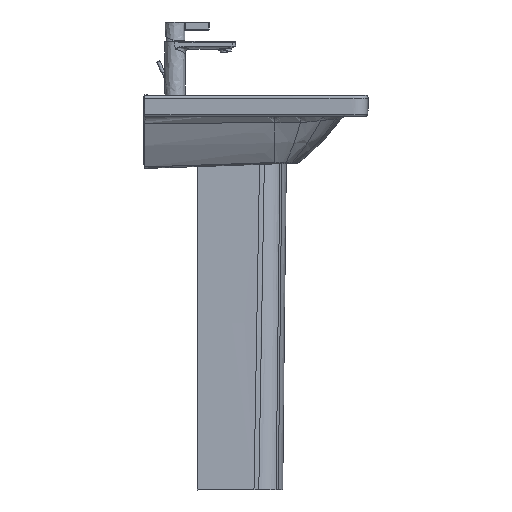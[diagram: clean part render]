
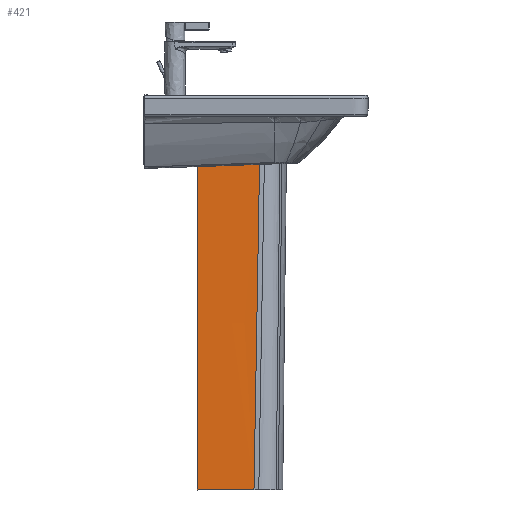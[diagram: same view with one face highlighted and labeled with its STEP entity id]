
A CAD part, left-side view. The second image highlights one B-rep face of the part: STEP entity #421.
In plain terms, the highlighted free-form (B-spline) face has degree [5, 5] with [9, 6] control points.
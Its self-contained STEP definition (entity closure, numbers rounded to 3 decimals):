
#421=ADVANCED_FACE('',(#1057),#9496,.T.);
#1057=FACE_OUTER_BOUND('',#1699,.T.);
#1699=EDGE_LOOP('',(#3626,#3627,#3628,#3629));
#3626=ORIENTED_EDGE('',*,*,#5879,.T.);
#3627=ORIENTED_EDGE('',*,*,#5881,.T.);
#3628=ORIENTED_EDGE('',*,*,#5880,.F.);
#3629=ORIENTED_EDGE('',*,*,#5865,.F.);
#5865=EDGE_CURVE('',#8615,#8601,#7605,.T.);
#5879=EDGE_CURVE('',#8615,#8622,#7619,.T.);
#5880=EDGE_CURVE('',#8601,#8602,#7620,.T.);
#5881=EDGE_CURVE('',#8622,#8602,#7621,.T.);
#7605=B_SPLINE_CURVE_WITH_KNOTS('',5,(#80259,#80260,#80261,#80262,#80263,
#80264,#80265,#80266,#80267,#80268,#80269,#80270,#80271,#80272,#80273,#80274,
#80275,#80276,#80277,#80278,#80279,#80280,#80281,#80282,#80283,#80284,#80285),
 .UNSPECIFIED.,.F.,.F.,(6,3,3,3,3,3,3,3,6),(-1014.293,-939.337,
-737.18,-534.646,-481.407,-329.77,
-152.247,-0.123,0.),.UNSPECIFIED.);
#7619=B_SPLINE_CURVE_WITH_KNOTS('',5,(#80482,#80483,#80484,#80485,#80486,
#80487),.UNSPECIFIED.,.F.,.F.,(6,6),(-44.424,76.24),
 .UNSPECIFIED.);
#7620=B_SPLINE_CURVE_WITH_KNOTS('',5,(#80488,#80489,#80490,#80491,#80492,
#80493),.UNSPECIFIED.,.F.,.F.,(6,6),(-132.778,0.),
 .UNSPECIFIED.);
#7621=B_SPLINE_CURVE_WITH_KNOTS('',5,(#80494,#80495,#80496,#80497,#80498,
#80499,#80500,#80501,#80502),.UNSPECIFIED.,.F.,.F.,(6,3,6),(-715.162,
-357.581,0.),.UNSPECIFIED.);
#8601=VERTEX_POINT('',#79983);
#8602=VERTEX_POINT('',#79984);
#8615=VERTEX_POINT('',#79997);
#8622=VERTEX_POINT('',#80004);
#9496=B_SPLINE_SURFACE_WITH_KNOTS('',5,5,((#78200,#78201,#78202,#78203,
#78204,#78205),(#78206,#78207,#78208,#78209,#78210,#78211),(#78212,#78213,
#78214,#78215,#78216,#78217),(#78218,#78219,#78220,#78221,#78222,#78223),
(#78224,#78225,#78226,#78227,#78228,#78229),(#78230,#78231,#78232,#78233,
#78234,#78235),(#78236,#78237,#78238,#78239,#78240,#78241),(#78242,#78243,
#78244,#78245,#78246,#78247),(#78248,#78249,#78250,#78251,#78252,#78253)),
 .UNSPECIFIED.,.F.,.F.,.F.,(6,3,6),(6,6),(0.,357.581,715.162),
(-86.45,76.24),.UNSPECIFIED.);
#78200=CARTESIAN_POINT('',(-85.765,154.916,-44.927));
#78201=CARTESIAN_POINT('',(-85.265,122.363,-44.927));
#78202=CARTESIAN_POINT('',(-84.765,89.811,-44.927));
#78203=CARTESIAN_POINT('',(-84.265,57.258,-44.927));
#78204=CARTESIAN_POINT('',(-83.765,24.705,-44.927));
#78205=CARTESIAN_POINT('',(-83.265,-7.847,-44.927));
#78206=CARTESIAN_POINT('',(-85.015,156.116,-116.427));
#78207=CARTESIAN_POINT('',(-84.849,123.561,-116.43));
#78208=CARTESIAN_POINT('',(-84.438,91.009,-116.43));
#78209=CARTESIAN_POINT('',(-83.905,58.457,-116.428));
#78210=CARTESIAN_POINT('',(-83.371,25.905,-116.426));
#78211=CARTESIAN_POINT('',(-82.96,-6.647,-116.427));
#78212=CARTESIAN_POINT('',(-84.265,157.316,-187.927));
#78213=CARTESIAN_POINT('',(-84.668,124.765,-187.936));
#78214=CARTESIAN_POINT('',(-84.463,92.219,-187.939));
#78215=CARTESIAN_POINT('',(-83.908,59.674,-187.938));
#78216=CARTESIAN_POINT('',(-83.261,27.129,-187.937));
#78217=CARTESIAN_POINT('',(-82.781,-5.419,-187.938));
#78218=CARTESIAN_POINT('',(-83.515,158.516,-259.427));
#78219=CARTESIAN_POINT('',(-83.321,125.971,-259.43));
#78220=CARTESIAN_POINT('',(-82.679,93.432,-259.426));
#78221=CARTESIAN_POINT('',(-81.865,60.896,-259.419));
#78222=CARTESIAN_POINT('',(-81.157,28.359,-259.412));
#78223=CARTESIAN_POINT('',(-80.83,-4.183,-259.41));
#78224=CARTESIAN_POINT('',(-82.015,160.916,-402.427));
#78225=CARTESIAN_POINT('',(-82.21,128.376,-402.434));
#78226=CARTESIAN_POINT('',(-81.622,95.848,-402.432));
#78227=CARTESIAN_POINT('',(-80.656,63.326,-402.426));
#78228=CARTESIAN_POINT('',(-79.717,30.803,-402.42));
#78229=CARTESIAN_POINT('',(-79.21,-1.727,-402.419));
#78230=CARTESIAN_POINT('',(-80.515,163.316,-545.427));
#78231=CARTESIAN_POINT('',(-80.321,130.784,-545.43));
#78232=CARTESIAN_POINT('',(-79.526,98.266,-545.426));
#78233=CARTESIAN_POINT('',(-78.472,65.754,-545.42));
#78234=CARTESIAN_POINT('',(-77.5,33.242,-545.413));
#78235=CARTESIAN_POINT('',(-76.949,0.722,-545.41));
#78236=CARTESIAN_POINT('',(-79.765,164.516,-616.927));
#78237=CARTESIAN_POINT('',(-80.168,131.986,-616.936));
#78238=CARTESIAN_POINT('',(-79.772,99.469,-616.939));
#78239=CARTESIAN_POINT('',(-78.916,66.957,-616.939));
#78240=CARTESIAN_POINT('',(-77.939,34.446,-616.938));
#78241=CARTESIAN_POINT('',(-77.18,1.929,-616.939));
#78242=CARTESIAN_POINT('',(-79.015,165.716,-688.427));
#78243=CARTESIAN_POINT('',(-78.849,133.189,-688.43));
#78244=CARTESIAN_POINT('',(-78.285,100.671,-688.43));
#78245=CARTESIAN_POINT('',(-77.512,68.157,-688.429));
#78246=CARTESIAN_POINT('',(-76.715,35.644,-688.427));
#78247=CARTESIAN_POINT('',(-76.081,3.127,-688.427));
#78248=CARTESIAN_POINT('',(-78.265,166.916,-759.927));
#78249=CARTESIAN_POINT('',(-77.766,134.398,-759.927));
#78250=CARTESIAN_POINT('',(-77.266,101.88,-759.927));
#78251=CARTESIAN_POINT('',(-76.767,69.363,-759.927));
#78252=CARTESIAN_POINT('',(-76.268,36.845,-759.927));
#78253=CARTESIAN_POINT('',(-75.768,4.327,-759.927));
#79983=CARTESIAN_POINT('',(-85.305,124.916,-44.927));
#79984=CARTESIAN_POINT('',(-83.265,-7.847,-44.927));
#79997=CARTESIAN_POINT('',(-77.62,124.916,-759.927));
#80004=CARTESIAN_POINT('',(-75.768,4.327,-759.927));
#80259=CARTESIAN_POINT('',(-77.62,124.916,-759.927));
#80260=CARTESIAN_POINT('',(-77.763,124.916,-749.329));
#80261=CARTESIAN_POINT('',(-77.913,124.916,-738.731));
#80262=CARTESIAN_POINT('',(-78.065,124.916,-728.134));
#80263=CARTESIAN_POINT('',(-78.619,124.916,-688.954));
#80264=CARTESIAN_POINT('',(-79.132,124.916,-649.773));
#80265=CARTESIAN_POINT('',(-79.451,124.916,-621.105));
#80266=CARTESIAN_POINT('',(-80.029,124.916,-563.884));
#80267=CARTESIAN_POINT('',(-80.583,124.916,-506.664));
#80268=CARTESIAN_POINT('',(-80.876,124.916,-478.208));
#80269=CARTESIAN_POINT('',(-81.292,124.916,-442.044));
#80270=CARTESIAN_POINT('',(-81.697,124.916,-405.88));
#80271=CARTESIAN_POINT('',(-81.759,124.916,-400.24));
#80272=CARTESIAN_POINT('',(-82.071,124.916,-371.272));
#80273=CARTESIAN_POINT('',(-82.375,124.916,-342.305));
#80274=CARTESIAN_POINT('',(-82.613,124.916,-320.814));
#80275=CARTESIAN_POINT('',(-83.149,124.916,-274.274));
#80276=CARTESIAN_POINT('',(-83.696,124.916,-227.734));
#80277=CARTESIAN_POINT('',(-83.982,124.916,-202.722));
#80278=CARTESIAN_POINT('',(-84.462,124.916,-156.113));
#80279=CARTESIAN_POINT('',(-84.844,124.916,-109.502));
#80280=CARTESIAN_POINT('',(-84.999,124.916,-88.033));
#80281=CARTESIAN_POINT('',(-85.143,124.916,-66.506));
#80282=CARTESIAN_POINT('',(-85.304,124.916,-44.979));
#80283=CARTESIAN_POINT('',(-85.304,124.916,-44.976));
#80284=CARTESIAN_POINT('',(-85.304,124.916,-44.951));
#80285=CARTESIAN_POINT('',(-85.305,124.916,-44.927));
#80482=CARTESIAN_POINT('',(-77.62,124.916,-759.927));
#80483=CARTESIAN_POINT('',(-77.25,100.798,-759.927));
#80484=CARTESIAN_POINT('',(-76.879,76.68,-759.927));
#80485=CARTESIAN_POINT('',(-76.509,52.563,-759.927));
#80486=CARTESIAN_POINT('',(-76.139,28.445,-759.927));
#80487=CARTESIAN_POINT('',(-75.768,4.327,-759.927));
#80488=CARTESIAN_POINT('',(-85.305,124.916,-44.927));
#80489=CARTESIAN_POINT('',(-84.897,98.363,-44.927));
#80490=CARTESIAN_POINT('',(-84.489,71.811,-44.927));
#80491=CARTESIAN_POINT('',(-84.081,45.258,-44.927));
#80492=CARTESIAN_POINT('',(-83.673,18.705,-44.927));
#80493=CARTESIAN_POINT('',(-83.265,-7.847,-44.927));
#80494=CARTESIAN_POINT('',(-75.768,4.327,-759.927));
#80495=CARTESIAN_POINT('',(-76.081,3.127,-688.427));
#80496=CARTESIAN_POINT('',(-77.18,1.929,-616.939));
#80497=CARTESIAN_POINT('',(-76.949,0.722,-545.41));
#80498=CARTESIAN_POINT('',(-79.21,-1.727,-402.419));
#80499=CARTESIAN_POINT('',(-80.83,-4.183,-259.41));
#80500=CARTESIAN_POINT('',(-82.781,-5.419,-187.938));
#80501=CARTESIAN_POINT('',(-82.96,-6.647,-116.427));
#80502=CARTESIAN_POINT('',(-83.265,-7.847,-44.927));
